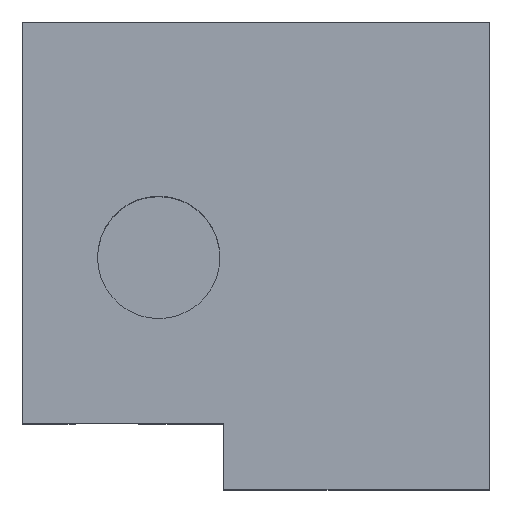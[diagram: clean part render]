
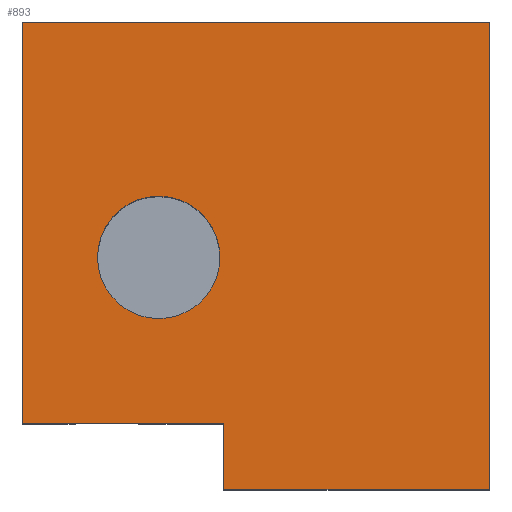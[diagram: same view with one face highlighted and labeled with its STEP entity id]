
A CAD part, top view. The second image highlights one B-rep face of the part: STEP entity #893.
In plain terms, the highlighted planar face has unit normal (0, 0, 1).
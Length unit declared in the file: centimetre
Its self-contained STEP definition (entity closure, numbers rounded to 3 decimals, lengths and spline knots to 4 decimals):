
#4 = EDGE_CURVE ( 'NONE', #1205, #944, #759, .T. ) ;
#10 = DIRECTION ( 'NONE',  ( 0., -1., 0. ) ) ;
#35 = VERTEX_POINT ( 'NONE', #318 ) ;
#37 = VECTOR ( 'NONE', #385, 100. ) ;
#59 = EDGE_CURVE ( 'NONE', #35, #1158, #912, .T. ) ;
#68 = CARTESIAN_POINT ( 'NONE',  ( 430.6935, 0., 1000. ) ) ;
#99 = EDGE_CURVE ( 'NONE', #963, #35, #1124, .T. ) ;
#115 = VECTOR ( 'NONE', #957, 100. ) ;
#125 = EDGE_LOOP ( 'NONE', ( #558, #469 ) ) ;
#149 = VERTEX_POINT ( 'NONE', #1031 ) ;
#150 = EDGE_CURVE ( 'NONE', #149, #963, #1054, .T. ) ;
#228 = DIRECTION ( 'NONE',  ( 1., 0., 0. ) ) ;
#261 = FACE_OUTER_BOUND ( 'NONE', #649, .T. ) ;
#303 = VECTOR ( 'NONE', #10, 100. ) ;
#318 = CARTESIAN_POINT ( 'NONE',  ( 0., 1000., 1000. ) ) ;
#359 = EDGE_CURVE ( 'NONE', #944, #1205, #459, .T. ) ;
#363 = DIRECTION ( 'NONE',  ( 0., 1., 0. ) ) ;
#371 = ORIENTED_EDGE ( 'NONE', *, *, #59, .T. ) ;
#385 = DIRECTION ( 'NONE',  ( 1., 0., 0. ) ) ;
#389 = CARTESIAN_POINT ( 'NONE',  ( 422.7778, 496.134, 1000. ) ) ;
#395 = EDGE_CURVE ( 'NONE', #949, #1158, #725, .T. ) ;
#407 = DIRECTION ( 'NONE',  ( 0., 0., 1. ) ) ;
#410 = VECTOR ( 'NONE', #1105, 100. ) ;
#415 = CARTESIAN_POINT ( 'NONE',  ( 0., 1000., 1000. ) ) ;
#459 = CIRCLE ( 'NONE', #663, 130.9864 ) ;
#469 = ORIENTED_EDGE ( 'NONE', *, *, #4, .F. ) ;
#489 = LINE ( 'NONE', #1269, #37 ) ;
#533 = DIRECTION ( 'NONE',  ( -1., 0., 0. ) ) ;
#558 = ORIENTED_EDGE ( 'NONE', *, *, #359, .F. ) ;
#578 = PLANE ( 'NONE',  #623 ) ;
#623 = AXIS2_PLACEMENT_3D ( 'NONE', #886, #881, #665 ) ;
#649 = EDGE_LOOP ( 'NONE', ( #780, #1016, #1138, #1057, #827, #371 ) ) ;
#660 = EDGE_CURVE ( 'NONE', #930, #949, #1153, .T. ) ;
#663 = AXIS2_PLACEMENT_3D ( 'NONE', #685, #407, #1085 ) ;
#665 = DIRECTION ( 'NONE',  ( 1., 0., 0. ) ) ;
#685 = CARTESIAN_POINT ( 'NONE',  ( 291.7915, 496.134, 1000. ) ) ;
#707 = CARTESIAN_POINT ( 'NONE',  ( 0., 1000., 1000. ) ) ;
#725 = LINE ( 'NONE', #832, #1137 ) ;
#759 = CIRCLE ( 'NONE', #1090, 130.9864 ) ;
#779 = FACE_BOUND ( 'NONE', #125, .T. ) ;
#780 = ORIENTED_EDGE ( 'NONE', *, *, #395, .F. ) ;
#827 = ORIENTED_EDGE ( 'NONE', *, *, #99, .T. ) ;
#830 = DIRECTION ( 'NONE',  ( 0., 0., 1. ) ) ;
#832 = CARTESIAN_POINT ( 'NONE',  ( 430.6935, 140.4215, 1000. ) ) ;
#881 = DIRECTION ( 'NONE',  ( 0., 0., 1. ) ) ;
#886 = CARTESIAN_POINT ( 'NONE',  ( 0., 0., 1000. ) ) ;
#893 = ADVANCED_FACE ( 'NONE', ( #261, #779 ), #578, .T. ) ;
#899 = CARTESIAN_POINT ( 'NONE',  ( 0., 140.4215, 1000. ) ) ;
#912 = LINE ( 'NONE', #415, #303 ) ;
#924 = CARTESIAN_POINT ( 'NONE',  ( 291.7915, 496.134, 1000. ) ) ;
#930 = VERTEX_POINT ( 'NONE', #68 ) ;
#944 = VERTEX_POINT ( 'NONE', #389 ) ;
#947 = EDGE_CURVE ( 'NONE', #930, #149, #489, .T. ) ;
#949 = VERTEX_POINT ( 'NONE', #1066 ) ;
#957 = DIRECTION ( 'NONE',  ( 0., 1., 0. ) ) ;
#963 = VERTEX_POINT ( 'NONE', #1249 ) ;
#1016 = ORIENTED_EDGE ( 'NONE', *, *, #660, .F. ) ;
#1031 = CARTESIAN_POINT ( 'NONE',  ( 1000., 0., 1000. ) ) ;
#1054 = LINE ( 'NONE', #1151, #1143 ) ;
#1057 = ORIENTED_EDGE ( 'NONE', *, *, #150, .T. ) ;
#1066 = CARTESIAN_POINT ( 'NONE',  ( 430.6935, 140.4215, 1000. ) ) ;
#1085 = DIRECTION ( 'NONE',  ( 1., 0., 0. ) ) ;
#1090 = AXIS2_PLACEMENT_3D ( 'NONE', #924, #830, #228 ) ;
#1105 = DIRECTION ( 'NONE',  ( -1., 0., 0. ) ) ;
#1124 = LINE ( 'NONE', #707, #410 ) ;
#1137 = VECTOR ( 'NONE', #533, 100. ) ;
#1138 = ORIENTED_EDGE ( 'NONE', *, *, #947, .T. ) ;
#1143 = VECTOR ( 'NONE', #363, 100. ) ;
#1151 = CARTESIAN_POINT ( 'NONE',  ( 1000., 1000., 1000. ) ) ;
#1153 = LINE ( 'NONE', #1256, #115 ) ;
#1158 = VERTEX_POINT ( 'NONE', #899 ) ;
#1205 = VERTEX_POINT ( 'NONE', #1207 ) ;
#1207 = CARTESIAN_POINT ( 'NONE',  ( 160.8051, 496.134, 1000. ) ) ;
#1249 = CARTESIAN_POINT ( 'NONE',  ( 1000., 1000., 1000. ) ) ;
#1256 = CARTESIAN_POINT ( 'NONE',  ( 430.6935, 0., 1000. ) ) ;
#1269 = CARTESIAN_POINT ( 'NONE',  ( 0., 0., 1000. ) ) ;
